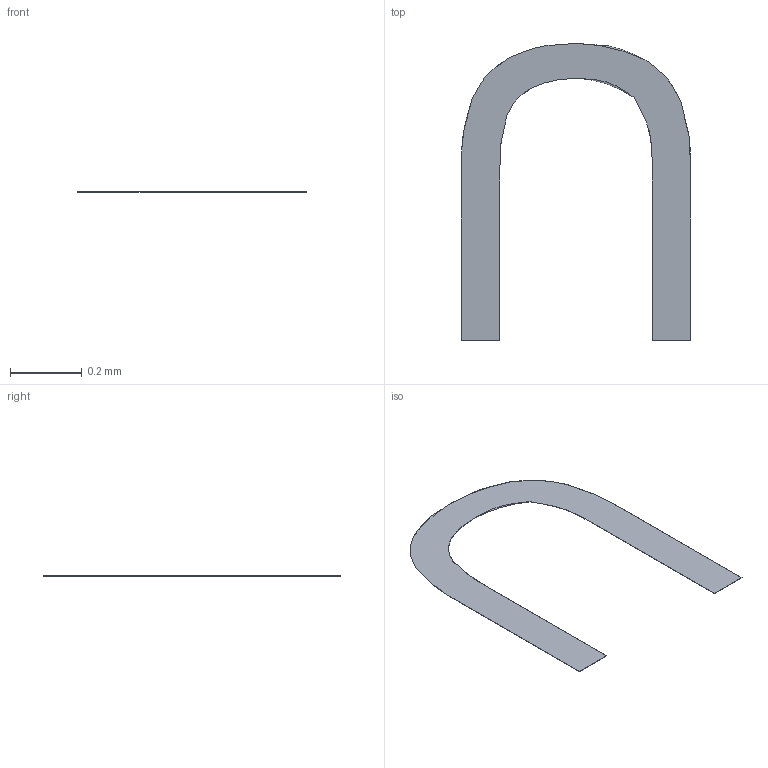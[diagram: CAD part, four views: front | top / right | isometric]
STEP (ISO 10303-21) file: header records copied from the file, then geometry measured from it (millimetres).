
FILE_DESCRIPTION(/* description */ ('STEP AP242 Edition 2','CAx-IF Rec.Pracs.---Representation and Presentation of Product Manufacturing Information (PMI)---4.0---2014-10-13','CAx-IF Rec.Pracs.---3D Tessellated Geometry---0.4---2014-09-14','2;1','CAx-IF Rec.Pracs.---User Defined Attributes---1.5---2016-08-15'),/* implementation_level */ '2;1');
FILE_NAME(/* name */ 'Drone Layout - Surface 344',/* time_stamp */ '2026-10-04T22:22:56Z',/* author */ (''),/* organization */ (''),/* preprocessor_version */ 'ST-DEVELOPER v20',/* originating_system */ 'ONSHAPE BY PTC INC, 1.221',/* authorisation */ ' ');
FILE_SCHEMA (('AP242_MANAGED_MODEL_BASED_3D_ENGINEERING_MIM_LF { 1 0 10303 442 3 1 4 }'));
Length unit declared in the file: metre
Products named in the file (1): VL53L0X:1__Body30
Bounding box: 0.64 x 0.83 x 0 mm (x, y, z)
Volume: 0 mm3; surface area: 0.4 mm2
Topology: 1 solids, 1 shells, 19 faces, 51 edges, 34 vertices
Faces by surface type: bspline 11, plane 8
Entity records: 698 total; most frequent: CARTESIAN_POINT 282, ORIENTED_EDGE 102, EDGE_CURVE 51, DIRECTION 47, VERTEX_POINT 34, LINE 29, VECTOR 29, B_SPLINE_CURVE_WITH_KNOTS 22
